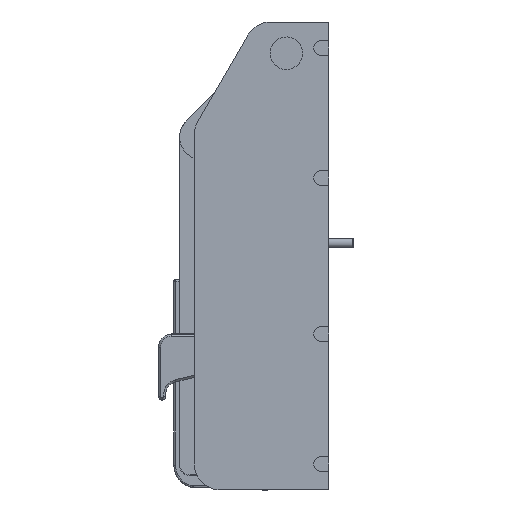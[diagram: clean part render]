
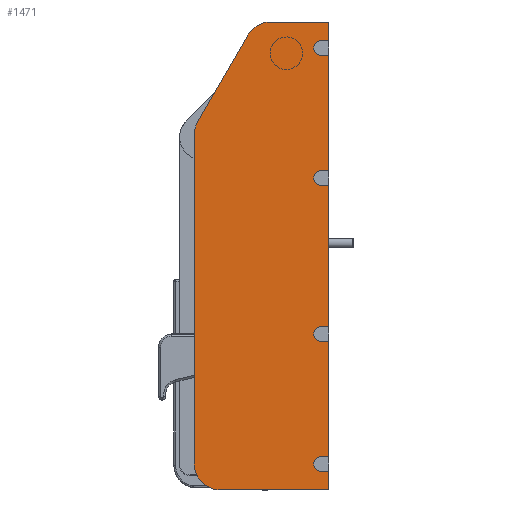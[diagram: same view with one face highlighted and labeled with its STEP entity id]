
A CAD part, left-side view. The second image highlights one B-rep face of the part: STEP entity #1471.
In plain terms, the highlighted planar face has unit normal (-1, 0, 0).
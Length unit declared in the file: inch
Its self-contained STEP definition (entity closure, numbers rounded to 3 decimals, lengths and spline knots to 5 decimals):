
#516=CARTESIAN_POINT('',(0.,2.52301,-1.921));
#517=VERTEX_POINT('',#516);
#524=CARTESIAN_POINT('',(0.,1.55826,-0.25));
#525=VERTEX_POINT('',#524);
#526=CARTESIAN_POINT('',(0.,1.55826,-0.25));
#527=DIRECTION('',(0.,0.5,-0.866));
#528=VECTOR('',#527,1.9295);
#529=LINE('',#526,#528);
#530=EDGE_CURVE('',#525,#517,#529,.T.);
#758=CARTESIAN_POINT('',(0.,0.155,-3.1405));
#759=VERTEX_POINT('',#758);
#766=CARTESIAN_POINT('',(0.,0.,-3.1405));
#767=VERTEX_POINT('',#766);
#768=CARTESIAN_POINT('',(0.,0.,-3.1405));
#769=DIRECTION('',(0.0,1.0,0.0));
#770=VECTOR('',#769,0.155);
#771=LINE('',#768,#770);
#772=EDGE_CURVE('',#767,#759,#771,.T.);
#789=CARTESIAN_POINT('',(0.,0.,-2.8595));
#790=VERTEX_POINT('',#789);
#797=CARTESIAN_POINT('',(0.,0.155,-2.8595));
#798=VERTEX_POINT('',#797);
#799=CARTESIAN_POINT('',(0.,0.155,-2.8595));
#800=DIRECTION('',(0.0,-1.0,0.0));
#801=VECTOR('',#800,0.155);
#802=LINE('',#799,#801);
#803=EDGE_CURVE('',#798,#790,#802,.T.);
#861=CARTESIAN_POINT('',(0.,0.,-5.8595));
#862=VERTEX_POINT('',#861);
#869=CARTESIAN_POINT('',(0.,0.155,-5.8595));
#870=VERTEX_POINT('',#869);
#871=CARTESIAN_POINT('',(0.,0.155,-5.8595));
#872=DIRECTION('',(0.0,-1.0,0.0));
#873=VECTOR('',#872,0.155);
#874=LINE('',#871,#873);
#875=EDGE_CURVE('',#870,#862,#874,.T.);
#892=CARTESIAN_POINT('',(0.,0.155,-6.1405));
#893=VERTEX_POINT('',#892);
#900=CARTESIAN_POINT('',(0.,0.,-6.1405));
#901=VERTEX_POINT('',#900);
#902=CARTESIAN_POINT('',(0.,0.,-6.1405));
#903=DIRECTION('',(0.0,1.0,0.0));
#904=VECTOR('',#903,0.155);
#905=LINE('',#902,#904);
#906=EDGE_CURVE('',#901,#893,#905,.T.);
#923=CARTESIAN_POINT('',(0.,0.,-5.8595));
#924=DIRECTION('',(0.0,0.0,1.0));
#925=VECTOR('',#924,2.719);
#926=LINE('',#923,#925);
#927=EDGE_CURVE('',#862,#767,#926,.T.);
#932=CARTESIAN_POINT('',(0.,0.,-8.3595));
#933=VERTEX_POINT('',#932);
#934=CARTESIAN_POINT('',(0.,0.,-8.3595));
#935=DIRECTION('',(0.0,0.0,1.0));
#936=VECTOR('',#935,2.219);
#937=LINE('',#934,#936);
#938=EDGE_CURVE('',#933,#901,#937,.T.);
#956=CARTESIAN_POINT('',(0.,0.,-8.6405));
#957=VERTEX_POINT('',#956);
#964=CARTESIAN_POINT('',(0.,0.,-9.));
#965=VERTEX_POINT('',#964);
#966=CARTESIAN_POINT('',(0.,0.,-9.));
#967=DIRECTION('',(0.0,0.0,1.0));
#968=VECTOR('',#967,0.3595);
#969=LINE('',#966,#968);
#970=EDGE_CURVE('',#965,#957,#969,.T.);
#988=CARTESIAN_POINT('',(0.,0.,0.));
#989=VERTEX_POINT('',#988);
#996=CARTESIAN_POINT('',(0.,0.,-0.3595));
#997=VERTEX_POINT('',#996);
#998=CARTESIAN_POINT('',(0.,0.,-0.3595));
#999=DIRECTION('',(0.0,0.0,1.0));
#1000=VECTOR('',#999,0.3595);
#1001=LINE('',#998,#1000);
#1002=EDGE_CURVE('',#997,#989,#1001,.T.);
#1020=CARTESIAN_POINT('',(0.,0.,-0.6405));
#1021=VERTEX_POINT('',#1020);
#1028=CARTESIAN_POINT('',(0.,0.,-2.8595));
#1029=DIRECTION('',(0.0,0.0,1.0));
#1030=VECTOR('',#1029,2.219);
#1031=LINE('',#1028,#1030);
#1032=EDGE_CURVE('',#790,#1021,#1031,.T.);
#1053=CARTESIAN_POINT('',(0.,0.155,-0.3595));
#1054=VERTEX_POINT('',#1053);
#1055=CARTESIAN_POINT('',(0.,0.155,-0.3595));
#1056=DIRECTION('',(0.0,-1.0,0.0));
#1057=VECTOR('',#1056,0.155);
#1058=LINE('',#1055,#1057);
#1059=EDGE_CURVE('',#1054,#997,#1058,.T.);
#1083=CARTESIAN_POINT('',(0.,0.155,-0.6405));
#1084=VERTEX_POINT('',#1083);
#1091=CARTESIAN_POINT('',(0.,0.,-0.6405));
#1092=DIRECTION('',(0.0,1.0,0.0));
#1093=VECTOR('',#1092,0.155);
#1094=LINE('',#1091,#1093);
#1095=EDGE_CURVE('',#1021,#1084,#1094,.T.);
#1132=CARTESIAN_POINT('',(0.,0.155,-8.6405));
#1133=VERTEX_POINT('',#1132);
#1140=CARTESIAN_POINT('',(0.,0.,-8.6405));
#1141=DIRECTION('',(0.0,1.0,0.0));
#1142=VECTOR('',#1141,0.155);
#1143=LINE('',#1140,#1142);
#1144=EDGE_CURVE('',#957,#1133,#1143,.T.);
#1164=CARTESIAN_POINT('',(0.,0.155,-8.3595));
#1165=VERTEX_POINT('',#1164);
#1166=CARTESIAN_POINT('',(0.,0.155,-8.3595));
#1167=DIRECTION('',(0.0,-1.0,0.0));
#1168=VECTOR('',#1167,0.155);
#1169=LINE('',#1166,#1168);
#1170=EDGE_CURVE('',#1165,#933,#1169,.T.);
#1270=CARTESIAN_POINT('',(0.,1.12525,0.));
#1271=VERTEX_POINT('',#1270);
#1272=CARTESIAN_POINT('',(0.,1.12525,-0.5));
#1273=DIRECTION('',(-1.0,0.0,0.0));
#1274=DIRECTION('',(0.0,0.0,-1.0));
#1275=AXIS2_PLACEMENT_3D('',#1272,#1273,#1274);
#1276=CIRCLE('',#1275,0.5);
#1277=EDGE_CURVE('',#1271,#525,#1276,.T.);
#1293=CARTESIAN_POINT('',(0.,2.59,-8.5));
#1294=VERTEX_POINT('',#1293);
#1303=CARTESIAN_POINT('',(0.,2.59,-2.171));
#1304=VERTEX_POINT('',#1303);
#1305=CARTESIAN_POINT('',(0.,2.59,-2.171));
#1306=DIRECTION('',(0.0,0.0,-1.0));
#1307=VECTOR('',#1306,6.329);
#1308=LINE('',#1305,#1307);
#1309=EDGE_CURVE('',#1304,#1294,#1308,.T.);
#1392=CARTESIAN_POINT('',(0.,1.295,-4.5));
#1393=DIRECTION('',(-1.0,0.0,0.0));
#1394=DIRECTION('',(0.0,-1.0,0.0));
#1395=AXIS2_PLACEMENT_3D('',#1392,#1393,#1394);
#1396=PLANE('',#1395);
#1397=ORIENTED_EDGE('',*,*,#772,.T.);
#1398=CARTESIAN_POINT('',(0.,0.155,-3.));
#1399=DIRECTION('',(1.0,0.0,0.0));
#1400=DIRECTION('',(0.0,-1.0,0.0));
#1401=AXIS2_PLACEMENT_3D('',#1398,#1399,#1400);
#1402=CIRCLE('',#1401,0.1405);
#1403=EDGE_CURVE('',#759,#798,#1402,.T.);
#1404=ORIENTED_EDGE('',*,*,#1403,.T.);
#1405=ORIENTED_EDGE('',*,*,#803,.T.);
#1406=ORIENTED_EDGE('',*,*,#1032,.T.);
#1407=ORIENTED_EDGE('',*,*,#1095,.T.);
#1408=CARTESIAN_POINT('',(0.,0.155,-0.5));
#1409=DIRECTION('',(1.0,0.0,0.0));
#1410=DIRECTION('',(0.0,-1.0,0.0));
#1411=AXIS2_PLACEMENT_3D('',#1408,#1409,#1410);
#1412=CIRCLE('',#1411,0.1405);
#1413=EDGE_CURVE('',#1084,#1054,#1412,.T.);
#1414=ORIENTED_EDGE('',*,*,#1413,.T.);
#1415=ORIENTED_EDGE('',*,*,#1059,.T.);
#1416=ORIENTED_EDGE('',*,*,#1002,.T.);
#1417=CARTESIAN_POINT('',(0.,0.,0.));
#1418=DIRECTION('',(0.0,1.0,0.0));
#1419=VECTOR('',#1418,1.12525);
#1420=LINE('',#1417,#1419);
#1421=EDGE_CURVE('',#989,#1271,#1420,.T.);
#1422=ORIENTED_EDGE('',*,*,#1421,.T.);
#1423=ORIENTED_EDGE('',*,*,#1277,.T.);
#1424=ORIENTED_EDGE('',*,*,#530,.T.);
#1425=CARTESIAN_POINT('',(0.,2.09,-2.171));
#1426=DIRECTION('',(-1.0,0.,0.));
#1427=DIRECTION('',(0.,-0.866,-0.5));
#1428=AXIS2_PLACEMENT_3D('',#1425,#1426,#1427);
#1429=CIRCLE('',#1428,0.5);
#1430=EDGE_CURVE('',#517,#1304,#1429,.T.);
#1431=ORIENTED_EDGE('',*,*,#1430,.T.);
#1432=ORIENTED_EDGE('',*,*,#1309,.T.);
#1433=CARTESIAN_POINT('',(0.,2.09,-9.));
#1434=VERTEX_POINT('',#1433);
#1435=CARTESIAN_POINT('',(0.,2.09,-8.5));
#1436=DIRECTION('',(1.0,0.,0.));
#1437=DIRECTION('',(0.,0.707,-0.707));
#1438=AXIS2_PLACEMENT_3D('',#1435,#1436,#1437);
#1439=CIRCLE('',#1438,0.5);
#1440=EDGE_CURVE('',#1434,#1294,#1439,.T.);
#1441=ORIENTED_EDGE('',*,*,#1440,.F.);
#1442=CARTESIAN_POINT('',(0.,2.09,-9.));
#1443=DIRECTION('',(0.0,-1.0,0.0));
#1444=VECTOR('',#1443,2.09);
#1445=LINE('',#1442,#1444);
#1446=EDGE_CURVE('',#1434,#965,#1445,.T.);
#1447=ORIENTED_EDGE('',*,*,#1446,.T.);
#1448=ORIENTED_EDGE('',*,*,#970,.T.);
#1449=ORIENTED_EDGE('',*,*,#1144,.T.);
#1450=CARTESIAN_POINT('',(0.,0.155,-8.5));
#1451=DIRECTION('',(1.0,0.0,0.0));
#1452=DIRECTION('',(0.0,-1.0,0.0));
#1453=AXIS2_PLACEMENT_3D('',#1450,#1451,#1452);
#1454=CIRCLE('',#1453,0.1405);
#1455=EDGE_CURVE('',#1133,#1165,#1454,.T.);
#1456=ORIENTED_EDGE('',*,*,#1455,.T.);
#1457=ORIENTED_EDGE('',*,*,#1170,.T.);
#1458=ORIENTED_EDGE('',*,*,#938,.T.);
#1459=ORIENTED_EDGE('',*,*,#906,.T.);
#1460=CARTESIAN_POINT('',(0.,0.155,-6.));
#1461=DIRECTION('',(1.0,0.0,0.0));
#1462=DIRECTION('',(0.0,-1.0,0.0));
#1463=AXIS2_PLACEMENT_3D('',#1460,#1461,#1462);
#1464=CIRCLE('',#1463,0.1405);
#1465=EDGE_CURVE('',#893,#870,#1464,.T.);
#1466=ORIENTED_EDGE('',*,*,#1465,.T.);
#1467=ORIENTED_EDGE('',*,*,#875,.T.);
#1468=ORIENTED_EDGE('',*,*,#927,.T.);
#1469=EDGE_LOOP('',(#1397,#1404,#1405,#1406,#1407,#1414,#1415,#1416,#1422,#1423,#1424,#1431,#1432,#1441,#1447,#1448,#1449,#1456,#1457,#1458,#1459,#1466,#1467,#1468));
#1470=FACE_OUTER_BOUND('',#1469,.T.);
#1471=ADVANCED_FACE('',(#1470),#1396,.T.);
